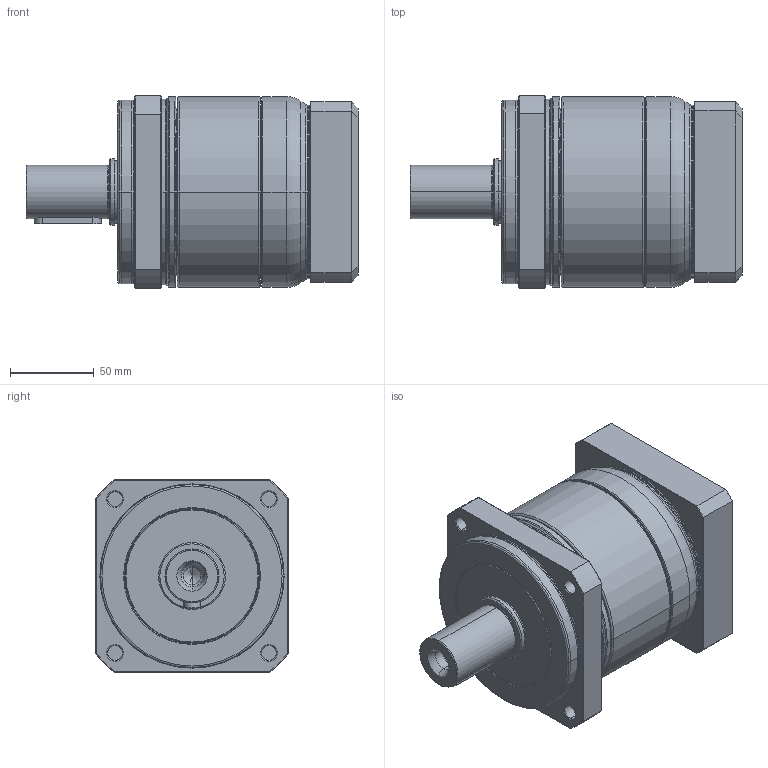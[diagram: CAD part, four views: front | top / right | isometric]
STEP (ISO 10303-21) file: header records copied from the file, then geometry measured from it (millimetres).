
FILE_DESCRIPTION((''),'2;1');
FILE_NAME('PA2-115_1ST_28-P0411600101_ASM','2016-05-05T',('d01943'),(''),'PRO/ENGINEER BY PARAMETRIC TECHNOLOGY CORPORATION, 2008410','PRO/ENGINEER BY PARAMETRIC TECHNOLOGY CORPORATION, 2008410','');
FILE_SCHEMA(('CONFIG_CONTROL_DESIGN'));
Length unit declared in the file: millimetre
Products named in the file (9): P1327410001; P0250400001; P1324400201; P0350400601; P0941402001; P0503600008; P0411600101; P1702500001; PA2-115_1ST_28-P0411600101_ASM
Assembly tree (8 placements, depth 2):
  PA2-115_1ST_28-P0411600101_ASM
    P1327410001
    P0250400001
    P1324400201
    P0350400601
    P0941402001
    P0503600008
    P0411600101
    P1702500001
Bounding box: 198.5 x 115 x 115 mm (x, y, z)
Volume: 1188339.3 mm3; surface area: 219909.5 mm2
Topology: 8 solids, 8 shells, 463 faces, 1012 edges, 584 vertices
Faces by surface type: cone 144, cylinder 129, torus 88, plane 86, bspline 16
Entity records: 17346 total; most frequent: CARTESIAN_POINT 6930, DIRECTION 2356, ORIENTED_EDGE 1984, AXIS2_PLACEMENT_3D 1005, EDGE_CURVE 992, VERTEX_POINT 584, CIRCLE 541, EDGE_LOOP 526
